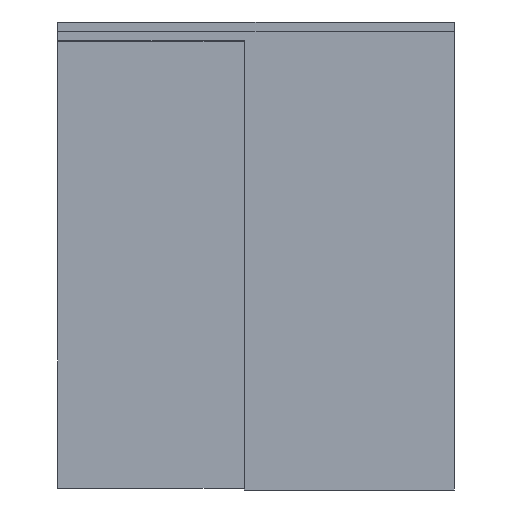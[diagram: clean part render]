
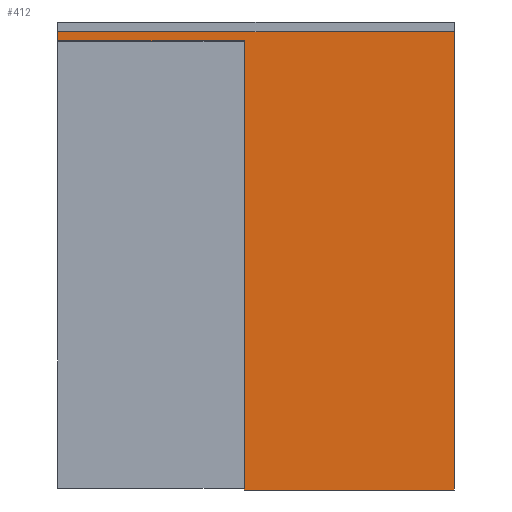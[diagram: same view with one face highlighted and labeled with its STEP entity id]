
A CAD part, front view. The second image highlights one B-rep face of the part: STEP entity #412.
In plain terms, the highlighted planar face has unit normal (0, -1, 0).
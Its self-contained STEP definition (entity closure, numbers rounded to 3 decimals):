
#412=ADVANCED_FACE('',(#1100),#1101,.F.);
#1100=FACE_OUTER_BOUND('',#2097,.T.);
#1101=PLANE('',#2098);
#2097=EDGE_LOOP('',(#3251,#3252,#3253,#3254,#3255,#3256));
#2098=AXIS2_PLACEMENT_3D('',#3257,#3258,#3259);
#3251=ORIENTED_EDGE('',*,*,#6016,.T.);
#3252=ORIENTED_EDGE('',*,*,#6006,.F.);
#3253=ORIENTED_EDGE('',*,*,#6010,.F.);
#3254=ORIENTED_EDGE('',*,*,#6014,.T.);
#3255=ORIENTED_EDGE('',*,*,#6017,.F.);
#3256=ORIENTED_EDGE('',*,*,#6018,.F.);
#3257=CARTESIAN_POINT('',(0.0,-46.5,2333.0));
#3258=DIRECTION('',(0.0,1.0,-0.0));
#3259=DIRECTION('',(0.0,0.0,1.0));
#6006=EDGE_CURVE('',#7208,#7203,#7210,.T.);
#6010=EDGE_CURVE('',#7214,#7208,#7216,.T.);
#6014=EDGE_CURVE('',#7214,#7220,#7222,.T.);
#6016=EDGE_CURVE('',#7224,#7203,#7225,.T.);
#6017=EDGE_CURVE('',#7226,#7220,#7227,.T.);
#6018=EDGE_CURVE('',#7224,#7226,#7228,.T.);
#7203=VERTEX_POINT('',#8973);
#7208=VERTEX_POINT('',#8980);
#7210=LINE('',#8983,#8984);
#7214=VERTEX_POINT('',#8989);
#7216=LINE('',#8992,#8993);
#7220=VERTEX_POINT('',#8998);
#7222=LINE('',#9001,#9002);
#7224=VERTEX_POINT('',#9004);
#7225=LINE('',#9005,#9006);
#7226=VERTEX_POINT('',#9007);
#7227=LINE('',#9008,#9009);
#7228=LINE('',#9010,#9011);
#8973=CARTESIAN_POINT('',(965.0,-46.5,2322.0));
#8980=CARTESIAN_POINT('',(965.0,-46.5,0.0));
#8983=CARTESIAN_POINT('',(965.0,-46.5,7.0));
#8984=VECTOR('',#11267,1.0);
#8989=CARTESIAN_POINT('',(2050.0,-46.5,0.0));
#8992=CARTESIAN_POINT('',(1327.5,-46.5,0.0));
#8993=VECTOR('',#11270,1.0);
#8998=CARTESIAN_POINT('',(2050.0,-46.5,2368.0));
#9001=CARTESIAN_POINT('',(2050.0,-46.5,7.0));
#9002=VECTOR('',#11273,1.0);
#9004=CARTESIAN_POINT('',(0.0,-46.5,2322.0));
#9005=CARTESIAN_POINT('',(0.0,-46.5,2322.0));
#9006=VECTOR('',#11274,1.0);
#9007=CARTESIAN_POINT('',(0.0,-46.5,2368.0));
#9008=CARTESIAN_POINT('',(1270.0,-46.5,2368.0));
#9009=VECTOR('',#11275,1.0);
#9010=CARTESIAN_POINT('',(0.0,-46.5,2301.0));
#9011=VECTOR('',#11276,1.0);
#11267=DIRECTION('',(0.0,0.0,1.0));
#11270=DIRECTION('',(-1.0,0.0,0.0));
#11273=DIRECTION('',(0.0,0.0,1.0));
#11274=DIRECTION('',(1.0,0.0,0.0));
#11275=DIRECTION('',(1.0,0.0,0.0));
#11276=DIRECTION('',(0.0,0.0,1.0));
